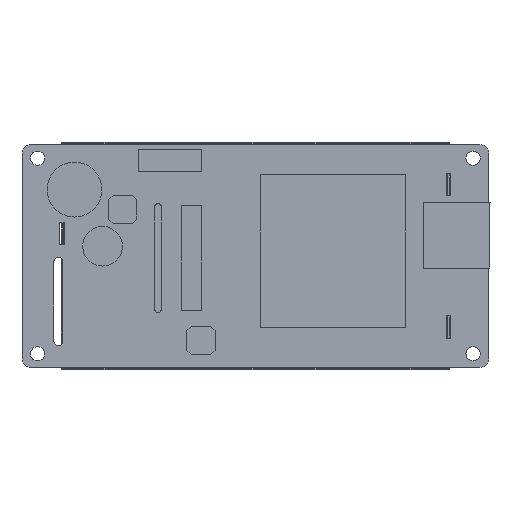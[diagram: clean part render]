
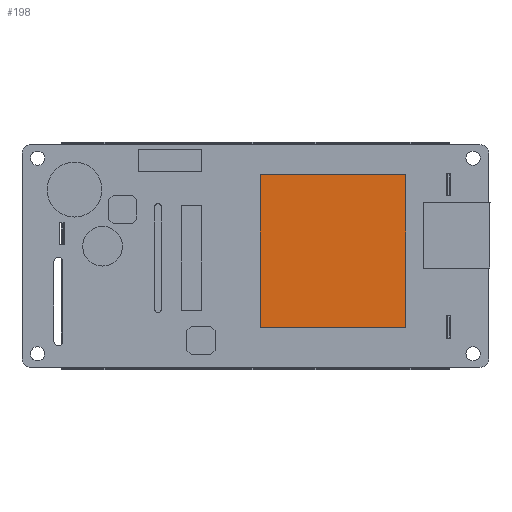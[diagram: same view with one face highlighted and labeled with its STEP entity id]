
A CAD part, top view. The second image highlights one B-rep face of the part: STEP entity #198.
In plain terms, the highlighted planar face has unit normal (0, 0, 1).
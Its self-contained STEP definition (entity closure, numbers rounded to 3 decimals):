
#65 = ORIENTED_EDGE ( 'NONE', *, *, #2970, .F. ) ;
#198 = ADVANCED_FACE ( 'NONE', ( #2722 ), #7897, .T. ) ;
#304 = DIRECTION ( 'NONE',  ( 0., 1., 0. ) ) ;
#353 = VECTOR ( 'NONE', #7581, 1000. ) ;
#373 = CARTESIAN_POINT ( 'NONE',  ( -1.868, -16.124, 10.5 ) ) ;
#436 = VECTOR ( 'NONE', #1119, 1000. ) ;
#1051 = CARTESIAN_POINT ( 'NONE',  ( 30.898, -16.124, 10.5 ) ) ;
#1119 = DIRECTION ( 'NONE',  ( -1., 0., 0. ) ) ;
#1393 = ORIENTED_EDGE ( 'NONE', *, *, #2980, .F. ) ;
#2033 = ORIENTED_EDGE ( 'NONE', *, *, #2971, .F. ) ;
#2113 = AXIS2_PLACEMENT_3D ( 'NONE', #6535, #6504, #5892 ) ;
#2294 = ORIENTED_EDGE ( 'NONE', *, *, #4110, .F. ) ;
#2383 = LINE ( 'NONE', #2637, #2468 ) ;
#2450 = LINE ( 'NONE', #3442, #353 ) ;
#2468 = VECTOR ( 'NONE', #304, 1000. ) ;
#2627 = LINE ( 'NONE', #373, #436 ) ;
#2637 = CARTESIAN_POINT ( 'NONE',  ( -1.868, 18.293, 10.5 ) ) ;
#2722 = FACE_OUTER_BOUND ( 'NONE', #5539, .T. ) ;
#2970 = EDGE_CURVE ( 'NONE', #3752, #6050, #2383, .T. ) ;
#2971 = EDGE_CURVE ( 'NONE', #3174, #3752, #2627, .T. ) ;
#2980 = EDGE_CURVE ( 'NONE', #4142, #3174, #2450, .T. ) ;
#3174 = VERTEX_POINT ( 'NONE', #1051 ) ;
#3380 = LINE ( 'NONE', #6935, #4726 ) ;
#3442 = CARTESIAN_POINT ( 'NONE',  ( 30.898, -16.124, 10.5 ) ) ;
#3752 = VERTEX_POINT ( 'NONE', #7746 ) ;
#4110 = EDGE_CURVE ( 'NONE', #6050, #4142, #3380, .T. ) ;
#4142 = VERTEX_POINT ( 'NONE', #6970 ) ;
#4726 = VECTOR ( 'NONE', #7587, 1000. ) ;
#5539 = EDGE_LOOP ( 'NONE', ( #2294, #65, #2033, #1393 ) ) ;
#5892 = DIRECTION ( 'NONE',  ( 1., 0., 0. ) ) ;
#6050 = VERTEX_POINT ( 'NONE', #6587 ) ;
#6504 = DIRECTION ( 'NONE',  ( 0., 0., 1. ) ) ;
#6535 = CARTESIAN_POINT ( 'NONE',  ( -53.45, -25.08, 10.5 ) ) ;
#6587 = CARTESIAN_POINT ( 'NONE',  ( -1.868, 18.293, 10.5 ) ) ;
#6935 = CARTESIAN_POINT ( 'NONE',  ( 30.898, 18.293, 10.5 ) ) ;
#6970 = CARTESIAN_POINT ( 'NONE',  ( 30.898, 18.293, 10.5 ) ) ;
#7581 = DIRECTION ( 'NONE',  ( 0., -1., 0. ) ) ;
#7587 = DIRECTION ( 'NONE',  ( 1., 0., 0. ) ) ;
#7746 = CARTESIAN_POINT ( 'NONE',  ( -1.868, -16.124, 10.5 ) ) ;
#7897 = PLANE ( 'NONE',  #2113 ) ;
